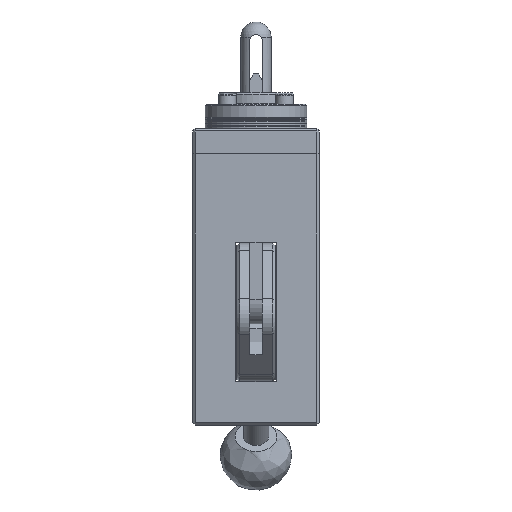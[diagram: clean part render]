
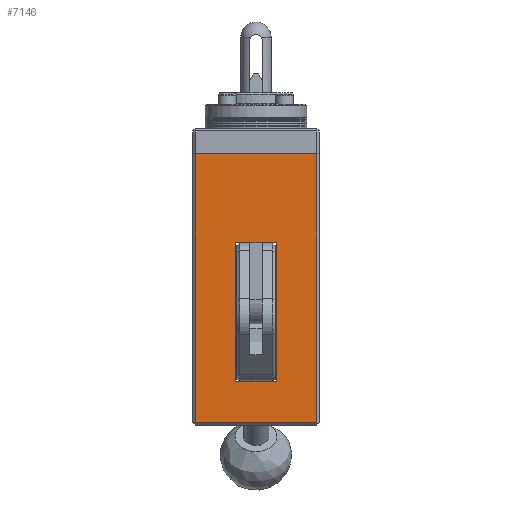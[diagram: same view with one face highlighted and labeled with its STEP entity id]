
A CAD part, left-side view. The second image highlights one B-rep face of the part: STEP entity #7146.
In plain terms, the highlighted planar face has unit normal (-1, 0, 0).
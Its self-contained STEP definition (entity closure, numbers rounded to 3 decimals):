
#436=LINE('',#11542,#966);
#443=LINE('',#11572,#973);
#469=LINE('',#11651,#999);
#472=LINE('',#11657,#1002);
#514=LINE('',#11871,#1044);
#522=LINE('',#11893,#1052);
#534=LINE('',#11933,#1064);
#535=LINE('',#11935,#1065);
#966=VECTOR('',#9066,10.);
#973=VECTOR('',#9095,10.);
#999=VECTOR('',#9171,10.);
#1002=VECTOR('',#9176,10.);
#1044=VECTOR('',#9408,10.);
#1052=VECTOR('',#9430,10.);
#1064=VECTOR('',#9474,10.);
#1065=VECTOR('',#9477,10.);
#1506=FACE_BOUND('',#2180,.T.);
#1733=FACE_OUTER_BOUND('',#2179,.T.);
#2179=EDGE_LOOP('',(#5695,#5696,#5697,#5698));
#2180=EDGE_LOOP('',(#5699,#5700,#5701,#5702));
#3109=VERTEX_POINT('',#11539);
#3110=VERTEX_POINT('',#11541);
#3121=VERTEX_POINT('',#11569);
#3122=VERTEX_POINT('',#11571);
#3150=VERTEX_POINT('',#11649);
#3152=VERTEX_POINT('',#11655);
#3229=VERTEX_POINT('',#11870);
#3236=VERTEX_POINT('',#11892);
#3948=EDGE_CURVE('',#3110,#3109,#436,.T.);
#3962=EDGE_CURVE('',#3121,#3122,#443,.T.);
#3999=EDGE_CURVE('',#3150,#3121,#469,.T.);
#4002=EDGE_CURVE('',#3152,#3150,#472,.T.);
#4105=EDGE_CURVE('',#3229,#3110,#514,.T.);
#4115=EDGE_CURVE('',#3236,#3229,#522,.T.);
#4133=EDGE_CURVE('',#3109,#3236,#534,.T.);
#4134=EDGE_CURVE('',#3122,#3152,#535,.T.);
#5695=ORIENTED_EDGE('',*,*,#3999,.F.);
#5696=ORIENTED_EDGE('',*,*,#4002,.F.);
#5697=ORIENTED_EDGE('',*,*,#4134,.F.);
#5698=ORIENTED_EDGE('',*,*,#3962,.F.);
#5699=ORIENTED_EDGE('',*,*,#4105,.T.);
#5700=ORIENTED_EDGE('',*,*,#3948,.T.);
#5701=ORIENTED_EDGE('',*,*,#4133,.T.);
#5702=ORIENTED_EDGE('',*,*,#4115,.T.);
#6829=PLANE('',#7956);
#7146=ADVANCED_FACE('',(#1733,#1506),#6829,.T.);
#7956=AXIS2_PLACEMENT_3D('',#11934,#9475,#9476);
#9066=DIRECTION('',(0.,0.,1.));
#9095=DIRECTION('',(0.,0.,1.));
#9171=DIRECTION('',(0.,1.,0.));
#9176=DIRECTION('',(0.,0.,-1.));
#9408=DIRECTION('',(0.,1.,0.));
#9430=DIRECTION('',(0.,0.,-1.));
#9474=DIRECTION('',(0.,-1.,0.));
#9475=DIRECTION('center_axis',(-1.,0.,0.));
#9476=DIRECTION('ref_axis',(0.,-1.,0.));
#9477=DIRECTION('',(0.,-1.,0.));
#11539=CARTESIAN_POINT('',(-36.509,7.434,18.5));
#11541=CARTESIAN_POINT('',(-36.509,7.434,-36.5));
#11542=CARTESIAN_POINT('',(-36.509,7.434,-45.));
#11569=CARTESIAN_POINT('',(-36.509,23.434,-52.5));
#11571=CARTESIAN_POINT('',(-36.509,23.434,53.5));
#11572=CARTESIAN_POINT('',(-36.509,23.434,-53.5));
#11649=CARTESIAN_POINT('',(-36.509,-24.566,-52.5));
#11651=CARTESIAN_POINT('',(-36.509,-6.816,-52.5));
#11655=CARTESIAN_POINT('',(-36.509,-24.566,53.5));
#11657=CARTESIAN_POINT('',(-36.509,-24.566,-53.5));
#11870=CARTESIAN_POINT('',(-36.509,-8.566,-36.5));
#11871=CARTESIAN_POINT('',(-36.509,-0.566,-36.5));
#11892=CARTESIAN_POINT('',(-36.509,-8.566,18.5));
#11893=CARTESIAN_POINT('',(-36.509,-8.566,-45.));
#11933=CARTESIAN_POINT('',(-36.509,-4.566,18.5));
#11934=CARTESIAN_POINT('Origin',(-36.509,-0.566,-53.5));
#11935=CARTESIAN_POINT('',(-36.509,-0.566,53.5));
